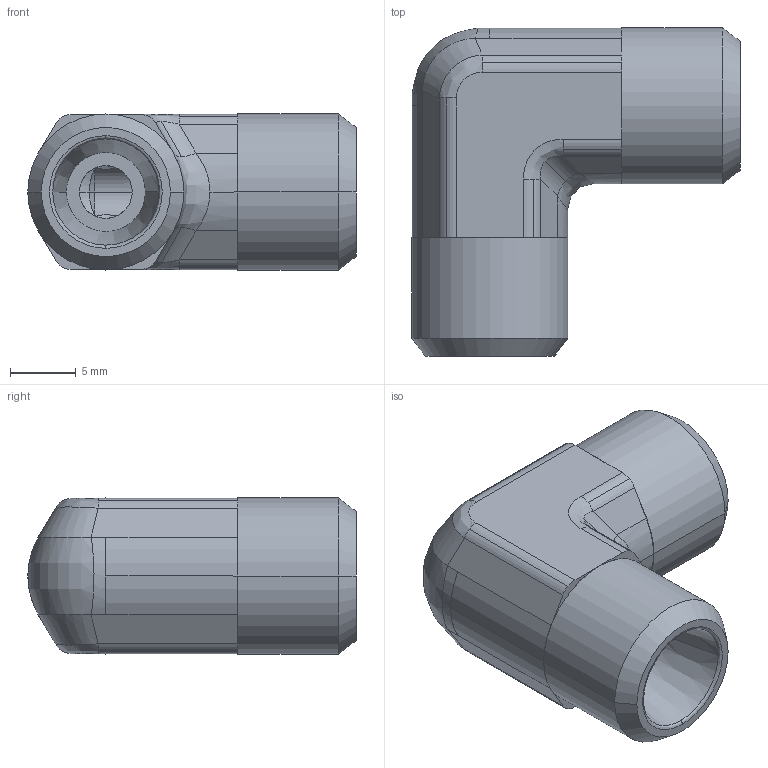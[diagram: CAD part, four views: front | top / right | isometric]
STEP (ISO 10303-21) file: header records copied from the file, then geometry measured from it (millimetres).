
FILE_DESCRIPTION((''),'2;1');
FILE_NAME('103804.stp','2007-10-31T11:54:11',(''),(''),'AutoCAD STEP 2000i','AutoCAD 2000i',', , ');
FILE_SCHEMA(('CONFIG_CONTROL_DESIGN'));
Length unit declared in the file: millimetre
Products named in the file (2): 103804.0; 3090#0
Assembly tree (1 placements, depth 2):
  103804.0
    3090#0
Bounding box: 24.93 x 24.93 x 11.85 mm (x, y, z)
Volume: 3412.9 mm3; surface area: 2127.4 mm2
Topology: 1 solids, 1 shells, 104 faces, 234 edges, 134 vertices
Faces by surface type: cylinder 44, plane 26, cone 20, bspline 14
Entity records: 3735 total; most frequent: CARTESIAN_POINT 1302, DIRECTION 526, ORIENTED_EDGE 468, EDGE_CURVE 234, AXIS2_PLACEMENT_3D 218, VERTEX_POINT 134, CIRCLE 108, EDGE_LOOP 108
